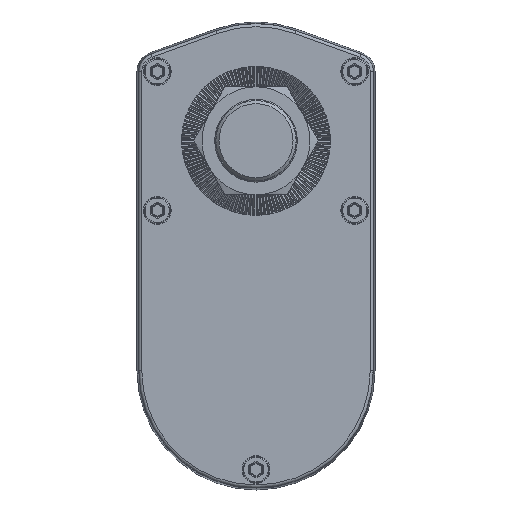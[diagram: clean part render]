
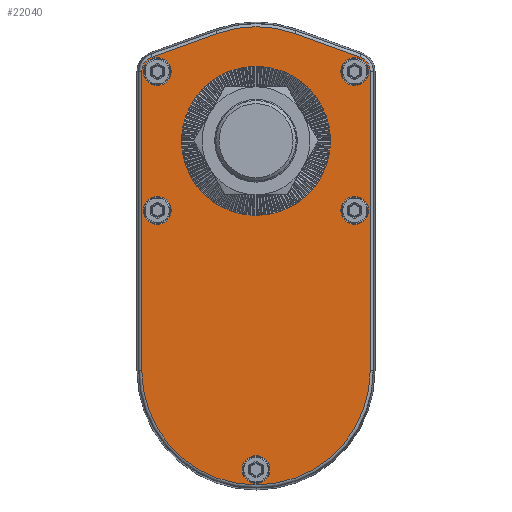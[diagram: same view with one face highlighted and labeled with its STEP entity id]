
A CAD part, top view. The second image highlights one B-rep face of the part: STEP entity #22040.
In plain terms, the highlighted planar face has unit normal (0, 0, 1).
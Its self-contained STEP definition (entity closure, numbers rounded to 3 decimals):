
#110 = AXIS2_PLACEMENT_3D ( 'NONE', #13213, #29367, #15549 ) ;
#245 = VERTEX_POINT ( 'NONE', #28912 ) ;
#769 = FACE_BOUND ( 'NONE', #12595, .T. ) ;
#917 = ORIENTED_EDGE ( 'NONE', *, *, #8477, .T. ) ;
#1455 = CARTESIAN_POINT ( 'NONE',  ( 0., 0., 40. ) ) ;
#1648 = DIRECTION ( 'NONE',  ( 0., -1., 0. ) ) ;
#1662 = ORIENTED_EDGE ( 'NONE', *, *, #13735, .F. ) ;
#2119 = VERTEX_POINT ( 'NONE', #24737 ) ;
#2404 = CIRCLE ( 'NONE', #19637, 4.5 ) ;
#2476 = VERTEX_POINT ( 'NONE', #15509 ) ;
#2727 = CARTESIAN_POINT ( 'NONE',  ( -33.701, 27.179, 40. ) ) ;
#2818 = DIRECTION ( 'NONE',  ( -1., 0., 0. ) ) ;
#3302 = AXIS2_PLACEMENT_3D ( 'NONE', #8753, #24960, #11077 ) ;
#3594 = ORIENTED_EDGE ( 'NONE', *, *, #7584, .F. ) ;
#3645 = ORIENTED_EDGE ( 'NONE', *, *, #28987, .T. ) ;
#3731 = DIRECTION ( 'NONE',  ( -1., 0., 0. ) ) ;
#3903 = EDGE_LOOP ( 'NONE', ( #917, #3645, #16810, #16691, #19935, #17872, #17993, #22121 ) ) ;
#3919 = VERTEX_POINT ( 'NONE', #12154 ) ;
#4259 = CARTESIAN_POINT ( 'NONE',  ( -31.995, 22.46, 40. ) ) ;
#4409 = CARTESIAN_POINT ( 'NONE',  ( -24.1, 0., 40. ) ) ;
#4492 = LINE ( 'NONE', #25599, #29014 ) ;
#4516 = DIRECTION ( 'NONE',  ( 0., 1., 0. ) ) ;
#4788 = CIRCLE ( 'NONE', #19302, 4.5 ) ;
#4996 = DIRECTION ( 'NONE',  ( 0., 0., 1. ) ) ;
#5193 = AXIS2_PLACEMENT_3D ( 'NONE', #4259, #20404, #6516 ) ;
#5399 = ORIENTED_EDGE ( 'NONE', *, *, #26661, .F. ) ;
#5643 = DIRECTION ( 'NONE',  ( 0., 0., 1. ) ) ;
#5780 = DIRECTION ( 'NONE',  ( 0., 0., 1. ) ) ;
#6379 = EDGE_CURVE ( 'NONE', #9218, #9218, #20394, .T. ) ;
#6412 = CARTESIAN_POINT ( 'NONE',  ( 0., 0., 40. ) ) ;
#6516 = DIRECTION ( 'NONE',  ( -1., 0., 0. ) ) ;
#6520 = VERTEX_POINT ( 'NONE', #18396 ) ;
#6791 = FACE_BOUND ( 'NONE', #13410, .T. ) ;
#7177 = EDGE_LOOP ( 'NONE', ( #23744 ) ) ;
#7584 = EDGE_CURVE ( 'NONE', #20859, #20859, #4788, .T. ) ;
#7804 = VERTEX_POINT ( 'NONE', #29726 ) ;
#7882 = EDGE_CURVE ( 'NONE', #6520, #2119, #16373, .T. ) ;
#8477 = EDGE_CURVE ( 'NONE', #3919, #245, #27899, .T. ) ;
#8487 = CARTESIAN_POINT ( 'NONE',  ( 4.5, -106.54, 40. ) ) ;
#8655 = DIRECTION ( 'NONE',  ( 0., 0., 1. ) ) ;
#8707 = DIRECTION ( 'NONE',  ( -1., 0., 0. ) ) ;
#8741 = EDGE_CURVE ( 'NONE', #2119, #9050, #28238, .T. ) ;
#8753 = CARTESIAN_POINT ( 'NONE',  ( 32., -22.54, 40. ) ) ;
#8847 = EDGE_CURVE ( 'NONE', #2476, #2476, #26804, .T. ) ;
#9050 = VERTEX_POINT ( 'NONE', #14332 ) ;
#9218 = VERTEX_POINT ( 'NONE', #8487 ) ;
#9410 = VECTOR ( 'NONE', #1648, 1000. ) ;
#9447 = CARTESIAN_POINT ( 'NONE',  ( 0., 0., 40. ) ) ;
#9763 = VECTOR ( 'NONE', #25600, 1000. ) ;
#10639 = CARTESIAN_POINT ( 'NONE',  ( -32., 22.46, 40. ) ) ;
#10690 = AXIS2_PLACEMENT_3D ( 'NONE', #1455, #17539, #3731 ) ;
#11077 = DIRECTION ( 'NONE',  ( -1., 0., 0. ) ) ;
#11235 = EDGE_LOOP ( 'NONE', ( #3594 ) ) ;
#11382 = VERTEX_POINT ( 'NONE', #16256 ) ;
#11706 = CARTESIAN_POINT ( 'NONE',  ( 12.586, 34.812, 40. ) ) ;
#11890 = PLANE ( 'NONE',  #20984 ) ;
#12154 = CARTESIAN_POINT ( 'NONE',  ( -37.012, 22.46, 40. ) ) ;
#12183 = FACE_BOUND ( 'NONE', #13273, .T. ) ;
#12470 = VERTEX_POINT ( 'NONE', #15602 ) ;
#12595 = EDGE_LOOP ( 'NONE', ( #29178 ) ) ;
#12922 = FACE_BOUND ( 'NONE', #11235, .T. ) ;
#12987 = DIRECTION ( 'NONE',  ( 1., 0., 0. ) ) ;
#13148 = EDGE_CURVE ( 'NONE', #16227, #6520, #4492, .T. ) ;
#13201 = EDGE_CURVE ( 'NONE', #7804, #11382, #28297, .T. ) ;
#13213 = CARTESIAN_POINT ( 'NONE',  ( 0., -106.54, 40. ) ) ;
#13273 = EDGE_LOOP ( 'NONE', ( #14185 ) ) ;
#13410 = EDGE_LOOP ( 'NONE', ( #5399 ) ) ;
#13735 = EDGE_CURVE ( 'NONE', #12470, #12470, #2404, .T. ) ;
#14185 = ORIENTED_EDGE ( 'NONE', *, *, #28374, .F. ) ;
#14332 = CARTESIAN_POINT ( 'NONE',  ( 12.586, 34.812, 40. ) ) ;
#14650 = AXIS2_PLACEMENT_3D ( 'NONE', #19501, #5643, #21816 ) ;
#15257 = EDGE_CURVE ( 'NONE', #9050, #7804, #21903, .T. ) ;
#15509 = CARTESIAN_POINT ( 'NONE',  ( -27.5, -22.54, 40. ) ) ;
#15549 = DIRECTION ( 'NONE',  ( 1., 0., 0. ) ) ;
#15602 = CARTESIAN_POINT ( 'NONE',  ( -27.5, 22.46, 40. ) ) ;
#15911 = AXIS2_PLACEMENT_3D ( 'NONE', #22537, #8655, #24876 ) ;
#16227 = VERTEX_POINT ( 'NONE', #22501 ) ;
#16240 = EDGE_CURVE ( 'NONE', #11382, #3919, #25476, .T. ) ;
#16256 = CARTESIAN_POINT ( 'NONE',  ( -33.701, 27.179, 40. ) ) ;
#16373 = CIRCLE ( 'NONE', #14650, 5.017 ) ;
#16585 = DIRECTION ( 'NONE',  ( 0., 0., -1. ) ) ;
#16691 = ORIENTED_EDGE ( 'NONE', *, *, #7882, .T. ) ;
#16810 = ORIENTED_EDGE ( 'NONE', *, *, #13148, .T. ) ;
#17539 = DIRECTION ( 'NONE',  ( 0., 0., 1. ) ) ;
#17872 = ORIENTED_EDGE ( 'NONE', *, *, #15257, .T. ) ;
#17993 = ORIENTED_EDGE ( 'NONE', *, *, #13201, .T. ) ;
#18181 = AXIS2_PLACEMENT_3D ( 'NONE', #19632, #5780, #21960 ) ;
#18333 = EDGE_LOOP ( 'NONE', ( #1662 ) ) ;
#18396 = CARTESIAN_POINT ( 'NONE',  ( 37.012, 22.46, 40. ) ) ;
#18402 = FACE_BOUND ( 'NONE', #18333, .T. ) ;
#18833 = DIRECTION ( 'NONE',  ( -0.94, -0.34, 0. ) ) ;
#18850 = CARTESIAN_POINT ( 'NONE',  ( 32., 22.46, 40. ) ) ;
#19022 = VERTEX_POINT ( 'NONE', #29729 ) ;
#19116 = FACE_OUTER_BOUND ( 'NONE', #3903, .T. ) ;
#19302 = AXIS2_PLACEMENT_3D ( 'NONE', #18850, #4996, #21167 ) ;
#19501 = CARTESIAN_POINT ( 'NONE',  ( 31.995, 22.46, 40. ) ) ;
#19632 = CARTESIAN_POINT ( 'NONE',  ( -32., -22.54, 40. ) ) ;
#19637 = AXIS2_PLACEMENT_3D ( 'NONE', #10639, #26847, #12987 ) ;
#19935 = ORIENTED_EDGE ( 'NONE', *, *, #8741, .T. ) ;
#20394 = CIRCLE ( 'NONE', #110, 4.5 ) ;
#20404 = DIRECTION ( 'NONE',  ( 0., 0., 1. ) ) ;
#20859 = VERTEX_POINT ( 'NONE', #27019 ) ;
#20984 = AXIS2_PLACEMENT_3D ( 'NONE', #9447, #16585, #2818 ) ;
#21167 = DIRECTION ( 'NONE',  ( -1., 0., 0. ) ) ;
#21310 = AXIS2_PLACEMENT_3D ( 'NONE', #6412, #22583, #8707 ) ;
#21816 = DIRECTION ( 'NONE',  ( -1., 0., 0. ) ) ;
#21903 = CIRCLE ( 'NONE', #10690, 37.017 ) ;
#21960 = DIRECTION ( 'NONE',  ( 1., 0., 0. ) ) ;
#22040 = ADVANCED_FACE ( 'NONE', ( #19116, #12922, #6791, #769, #24521, #18402, #12183 ), #11890, .F. ) ;
#22121 = ORIENTED_EDGE ( 'NONE', *, *, #16240, .T. ) ;
#22501 = CARTESIAN_POINT ( 'NONE',  ( 37.012, -74.495, 40. ) ) ;
#22537 = CARTESIAN_POINT ( 'NONE',  ( 0., -74.495, 40. ) ) ;
#22583 = DIRECTION ( 'NONE',  ( 0., 0., 1. ) ) ;
#23022 = CIRCLE ( 'NONE', #21310, 24.1 ) ;
#23744 = ORIENTED_EDGE ( 'NONE', *, *, #8847, .F. ) ;
#24426 = VERTEX_POINT ( 'NONE', #4409 ) ;
#24497 = CARTESIAN_POINT ( 'NONE',  ( -37.012, -74.495, 40. ) ) ;
#24521 = FACE_BOUND ( 'NONE', #7177, .T. ) ;
#24737 = CARTESIAN_POINT ( 'NONE',  ( 33.701, 27.179, 40. ) ) ;
#24876 = DIRECTION ( 'NONE',  ( -1., 0., 0. ) ) ;
#24960 = DIRECTION ( 'NONE',  ( 0., 0., 1. ) ) ;
#25476 = CIRCLE ( 'NONE', #5193, 5.017 ) ;
#25600 = DIRECTION ( 'NONE',  ( -0.94, 0.34, 0. ) ) ;
#25599 = CARTESIAN_POINT ( 'NONE',  ( 37.012, 22.46, 40. ) ) ;
#25924 = CIRCLE ( 'NONE', #15911, 37.012 ) ;
#26372 = CIRCLE ( 'NONE', #3302, 4.5 ) ;
#26661 = EDGE_CURVE ( 'NONE', #19022, #19022, #26372, .T. ) ;
#26804 = CIRCLE ( 'NONE', #18181, 4.5 ) ;
#26847 = DIRECTION ( 'NONE',  ( 0., 0., 1. ) ) ;
#27019 = CARTESIAN_POINT ( 'NONE',  ( 27.5, 22.46, 40. ) ) ;
#27595 = VECTOR ( 'NONE', #18833, 1000. ) ;
#27899 = LINE ( 'NONE', #24497, #9410 ) ;
#28238 = LINE ( 'NONE', #11706, #9763 ) ;
#28297 = LINE ( 'NONE', #2727, #27595 ) ;
#28374 = EDGE_CURVE ( 'NONE', #24426, #24426, #23022, .T. ) ;
#28912 = CARTESIAN_POINT ( 'NONE',  ( -37.012, -74.495, 40. ) ) ;
#28987 = EDGE_CURVE ( 'NONE', #245, #16227, #25924, .T. ) ;
#29014 = VECTOR ( 'NONE', #4516, 1000. ) ;
#29178 = ORIENTED_EDGE ( 'NONE', *, *, #6379, .F. ) ;
#29367 = DIRECTION ( 'NONE',  ( 0., 0., 1. ) ) ;
#29726 = CARTESIAN_POINT ( 'NONE',  ( -12.586, 34.812, 40. ) ) ;
#29729 = CARTESIAN_POINT ( 'NONE',  ( 27.5, -22.54, 40. ) ) ;
